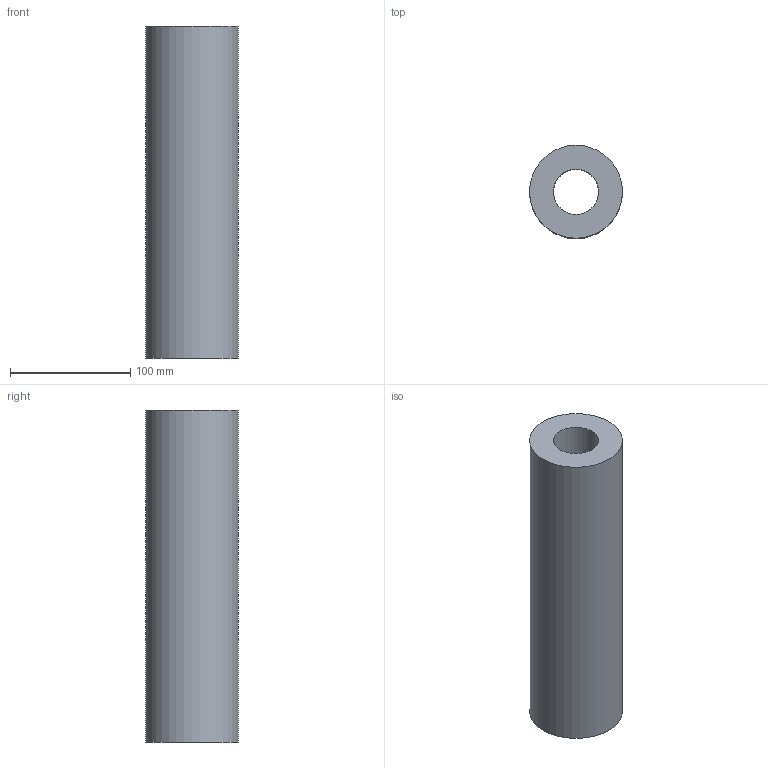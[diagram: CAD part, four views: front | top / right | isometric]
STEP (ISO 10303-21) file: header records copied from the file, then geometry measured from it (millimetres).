
FILE_DESCRIPTION(('Mechanical CAD reference from nasji.com'),'2;1');
FILE_NAME('NASJI.step','',(''),(''),'','NASJI distribution','');
FILE_SCHEMA(('AUTOMOTIVE_DESIGN { 1 0 10303 214 1 1 1 1 }'));
Length unit declared in the file: millimetre
Products named in the file (1): Open CASCADE STEP translator 7.8 124
Bounding box: 77.27 x 77.27 x 276 mm (x, y, z)
Volume: 986164.9 mm3; surface area: 106834.3 mm2
Topology: 1 solids, 1 shells, 4 faces, 6 edges, 4 vertices
Faces by surface type: plane 2, cylinder 2
Full cylindrical faces by diameter (mm): 37.7 x1, 77.27 x1
Entity records: 186 total; most frequent: DIRECTION 32, CARTESIAN_POINT 27, ORIENTED_EDGE 12, PCURVE 12, DEFINITIONAL_REPRESENTATION 12, LINE 10, VECTOR 10, AXIS2_PLACEMENT_3D 9
